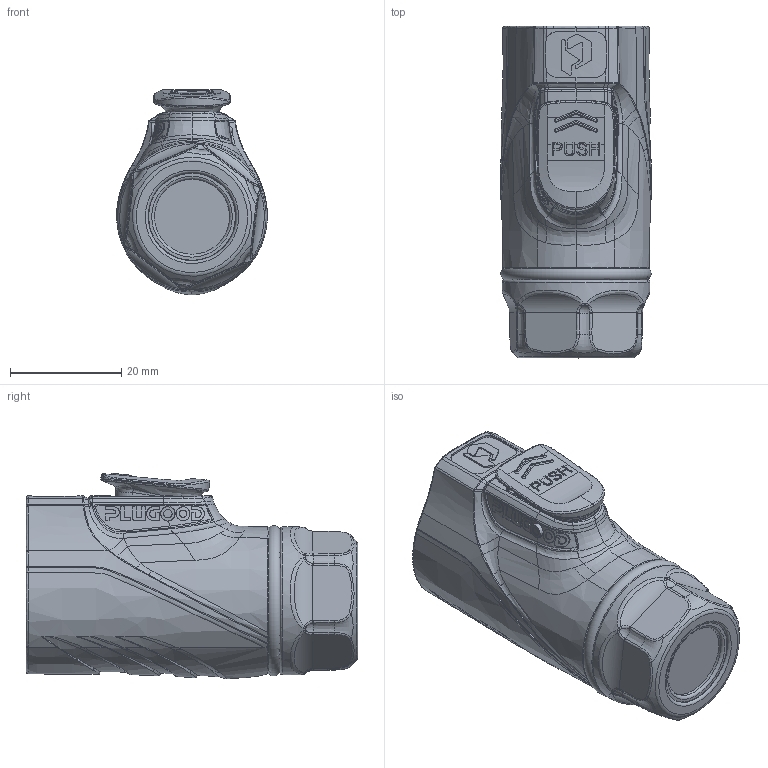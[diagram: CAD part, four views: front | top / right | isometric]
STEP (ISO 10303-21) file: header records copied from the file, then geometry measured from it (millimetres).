
FILE_DESCRIPTION (( 'STEP AP203' ), '1' );
FILE_NAME ('PLG20 3郋3.0 毀蚾脣芛.STEP', '2025-04-14T03:26:49', ( '' ), ( '' ), 'SwSTEP 2.0', 'SolidWorks 2024', '' );
FILE_SCHEMA (( 'CONFIG_CONTROL_DESIGN' ));
Products named in the file (1): PLG20 3芯3.0 反装插头
Bounding box: 27.09 x 59.6 x 36.9 mm (x, y, z)
Topology: 1 solids, 8 shells, 1355 faces, 3584 edges, 2256 vertices
Faces by surface type: bspline 762, plane 307, cylinder 159, torus 75, cone 44, sphere 8
Full cylindrical faces by diameter (mm): 1.5 x2, 1.519 x1, 1.6 x2, 2.5 x1, 2.65 x1, 3.25 x3, 4.5 x1, 4.538 x1, 4.644 x1, 4.65 x3, 13.5 x1, 15.8 x1, 19.2 x2, 19.3 x2, 19.4 x2, 22.23 x2, 22.4 x2, 26.6 x1
Entity records: 89861 total; most frequent: CARTESIAN_POINT 63523, ORIENTED_EDGE 6916, EDGE_CURVE 3458, DIRECTION 2970, VERTEX_POINT 2205, B_SPLINE_CURVE_WITH_KNOTS 2076, EDGE_LOOP 1475, FACE_OUTER_BOUND 1400
